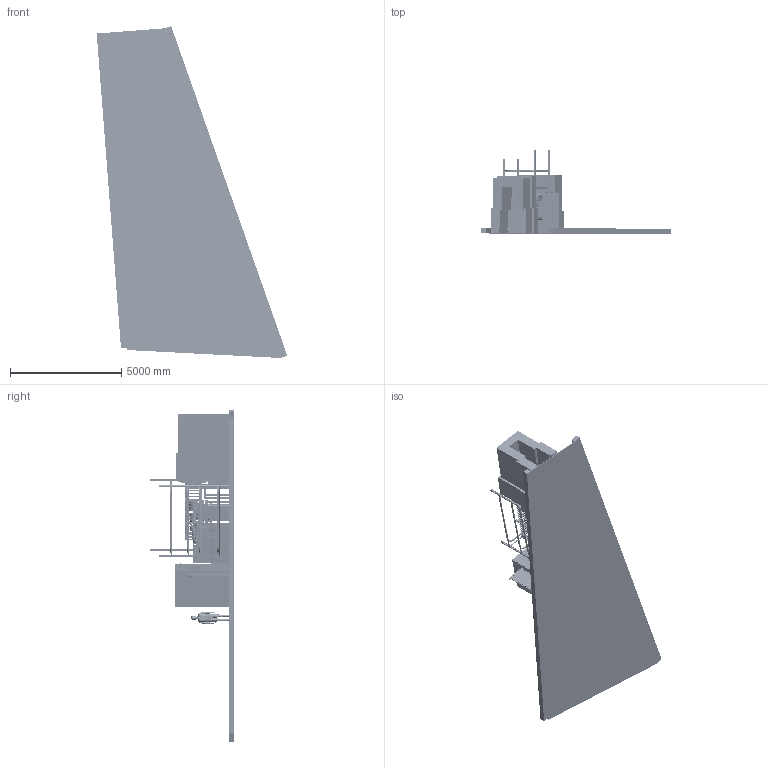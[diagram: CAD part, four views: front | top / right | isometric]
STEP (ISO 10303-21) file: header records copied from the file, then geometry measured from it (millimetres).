
FILE_DESCRIPTION(/* description */ (''),/* implementation_level */ '2;1');
FILE_NAME(/* name */ '/Users/calebwickersham/Downloads/HFS002 n3He v6.stp',/* time_stamp */ '2014-02-26T15:36:52-05:00',/* author */ (''),/* organization */ (''),/* preprocessor_version */ 'ST-DEVELOPER v15.5',/* originating_system */ 'Autodesk Translator Framework v3.0.0.5403',/* authorisation */ '');
FILE_SCHEMA (('AUTOMOTIVE_DESIGN { 1 0 10303 214 3 1 1 }'));
Products named in the file (859): FUND1331M8U8713A008; BOTTOMHORIZ-01; BOTTOMHORIZ-02; BOTTOMHORIZ-03; BOTTOMHORIZ-04; BOTTOMPLATECOMPMAGNET; ADJACENT_MOUNT-01; ADJACENT_MOUNT-02; ADJACENT_THRUST_BEARING; ADJACENT_SCREW; ADJACENT_WASHER; ADJACENT_MOUNT_ASSEMBLY_ASM; SBRACKET; 90313A117; 91845A310; BOTTOMHORIZ-06; STEELPLATE; ALBETWEENSTACKS; ALPLATETOP; PILLARUPSTREAM; LATERALMAGPLATE; ALPLATEBOTTOM; INTERMAG2; INTERMAG3; INTERMAG1; HSHAPELEFT; HSHAPERIGHT; HSHAPEBOTTOM; ALBETWEENSTACKSRIGHT; COMPMAGNET2_ASM; BENDER_NPDG; 30750; 30751; 30752A; 29040B_ASM; 29057; 21935A_ASM; COMP_MAGNET_STEP_ASM; FUND13NPDG11M8U8713A001_ASM; FUND13NPDG55M8U8713A003-01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
Bounding box: 8552.6 x 3738.03 x 14900.86 mm (x, y, z)
Volume: 24015316911.8 mm3; surface area: 577304085.7 mm2
Topology: 2269 solids, 2665 shells, 52264 faces, 129848 edges, 84056 vertices
Faces by surface type: plane 30210, cylinder 15116, cone 5069, bspline 1246, torus 574, sphere 49
Full cylindrical faces by diameter (mm): 0.889 x8, 1 x4, 1.016 x908, 1.321 x72, 1.524 x1, 1.727 x4, 1.803 x4, 2.032 x3, 2.159 x4, 2.261 x140, 2.388 x1, 3.505 x24, 3.683 x8, 3.785 x32, 3.797 x24, 3.81 x24, 3.967 x16, 4.064 x2, 4.318 x8, 4.343 x12, 4.369 x54, 4.763 x6, 4.775 x2400, 4.826 x8, 4.978 x137, 5.105 x481, 5.156 x8, 5.207 x24, 5.563 x16, 6 x544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
Entity records: 768716 total; most frequent: CARTESIAN_POINT 172583, DIRECTION 122328, ORIENTED_EDGE 107942, EDGE_CURVE 54101, AXIS2_PLACEMENT_3D 43055, VERTEX_POINT 38565, EDGE_LOOP 36438, LINE 36218
